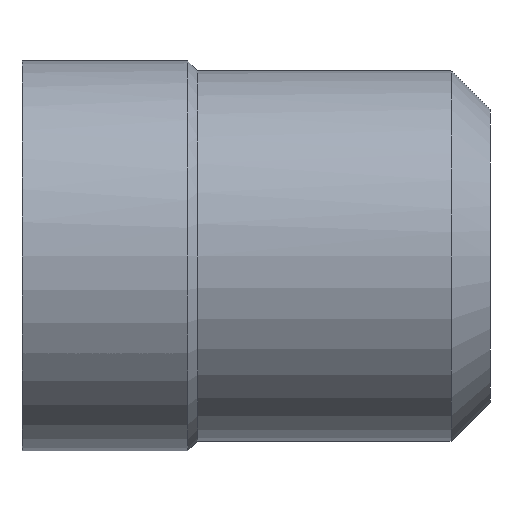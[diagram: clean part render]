
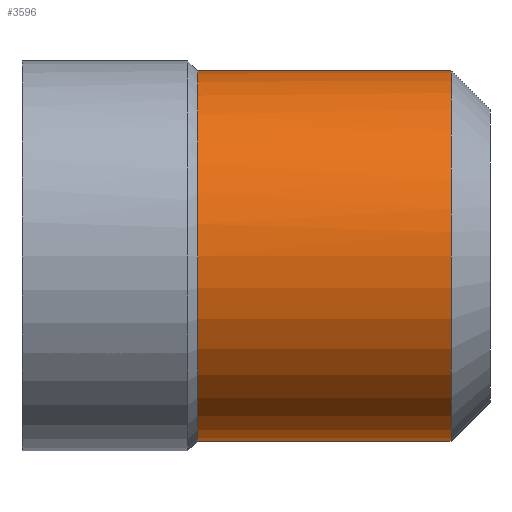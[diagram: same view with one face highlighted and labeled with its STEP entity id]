
A CAD part, front view. The second image highlights one B-rep face of the part: STEP entity #3596.
In plain terms, the highlighted cylindrical face has radius 4.75 mm (diameter 9.5 mm), a partial arc.
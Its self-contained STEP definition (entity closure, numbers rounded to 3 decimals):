
#3188=CARTESIAN_POINT('Vertex',(4.5,0.,4.75)) ;
#3202=CARTESIAN_POINT('Vertex',(4.5,0.,-4.75)) ;
#3224=CARTESIAN_POINT('Axis2P3D Location',(4.5,0.,0.)) ;
#3228=CARTESIAN_POINT('Vertex',(4.5,-4.75,0.)) ;
#3231=CARTESIAN_POINT('Axis2P3D Location',(4.5,0.,0.)) ;
#3530=CARTESIAN_POINT('Line Origine',(4.564,0.,-4.75)) ;
#3534=CARTESIAN_POINT('Vertex',(11.,0.,-4.75)) ;
#3537=CARTESIAN_POINT('Line Origine',(4.564,0.,4.75)) ;
#3541=CARTESIAN_POINT('Vertex',(11.,0.,4.75)) ;
#3568=CARTESIAN_POINT('Axis2P3D Location',(4.564,0.,0.)) ;
#3573=CARTESIAN_POINT('Axis2P3D Location',(11.,0.,0.)) ;
#3577=CARTESIAN_POINT('Vertex',(11.,-4.75,0.)) ;
#3581=CARTESIAN_POINT('Control Point',(11.,0.,4.75)) ;
#3582=CARTESIAN_POINT('Control Point',(11.,-1.492,4.75)) ;
#3583=CARTESIAN_POINT('Control Point',(11.,-2.986,4.166)) ;
#3584=CARTESIAN_POINT('Control Point',(11.,-4.166,2.986)) ;
#3585=CARTESIAN_POINT('Control Point',(11.,-4.75,1.492)) ;
#3586=CARTESIAN_POINT('Control Point',(11.,-4.75,0.)) ;
#3225=DIRECTION('Axis2P3D Direction',(-1.,0.,0.)) ;
#3232=DIRECTION('Axis2P3D Direction',(-1.,0.,0.)) ;
#3531=DIRECTION('Vector Direction',(-1.,0.,0.)) ;
#3538=DIRECTION('Vector Direction',(-1.,0.,0.)) ;
#3569=DIRECTION('Axis2P3D Direction',(-1.,-0.,-0.)) ;
#3570=DIRECTION('Axis2P3D XDirection',(0.,0.,-1.)) ;
#3574=DIRECTION('Axis2P3D Direction',(-1.,-0.,-0.)) ;
#3226=AXIS2_PLACEMENT_3D('Circle Axis2P3D',#3224,#3225,$) ;
#3233=AXIS2_PLACEMENT_3D('Circle Axis2P3D',#3231,#3232,$) ;
#3571=AXIS2_PLACEMENT_3D('Cylinder Axis2P3D',#3568,#3569,#3570) ;
#3575=AXIS2_PLACEMENT_3D('Circle Axis2P3D',#3573,#3574,$) ;
#3589=ORIENTED_EDGE('',*,*,#3543,.T.) ;
#3590=ORIENTED_EDGE('',*,*,#3235,.T.) ;
#3591=ORIENTED_EDGE('',*,*,#3230,.T.) ;
#3592=ORIENTED_EDGE('',*,*,#3536,.T.) ;
#3593=ORIENTED_EDGE('',*,*,#3579,.F.) ;
#3594=ORIENTED_EDGE('',*,*,#3587,.F.) ;
#3532=VECTOR('Line Direction',#3531,1.) ;
#3539=VECTOR('Line Direction',#3538,1.) ;
#3596=ADVANCED_FACE('MSO210',(#3595),#3572,.T.) ;
#3580=B_SPLINE_CURVE_WITH_KNOTS('',5,(#3581,#3582,#3583,#3584,#3585,#3586),.UNSPECIFIED.,.F.,.U.,(6,6),(-3.731,3.731),.UNSPECIFIED.) ;
#3227=CIRCLE('generated circle',#3226,4.75) ;
#3234=CIRCLE('generated circle',#3233,4.75) ;
#3576=CIRCLE('generated circle',#3575,4.75) ;
#3572=CYLINDRICAL_SURFACE('generated cylinder',#3571,4.75) ;
#3230=EDGE_CURVE('',#3229,#3203,#3227,.F.) ;
#3235=EDGE_CURVE('',#3189,#3229,#3234,.F.) ;
#3536=EDGE_CURVE('',#3203,#3535,#3533,.F.) ;
#3543=EDGE_CURVE('',#3542,#3189,#3540,.T.) ;
#3579=EDGE_CURVE('',#3578,#3535,#3576,.F.) ;
#3587=EDGE_CURVE('',#3542,#3578,#3580,.T.) ;
#3588=EDGE_LOOP('',(#3589,#3590,#3591,#3592,#3593,#3594)) ;
#3595=FACE_OUTER_BOUND('',#3588,.T.) ;
#3533=LINE('Line',#3530,#3532) ;
#3540=LINE('Line',#3537,#3539) ;
#3189=VERTEX_POINT('',#3188) ;
#3203=VERTEX_POINT('',#3202) ;
#3229=VERTEX_POINT('',#3228) ;
#3535=VERTEX_POINT('',#3534) ;
#3542=VERTEX_POINT('',#3541) ;
#3578=VERTEX_POINT('',#3577) ;
